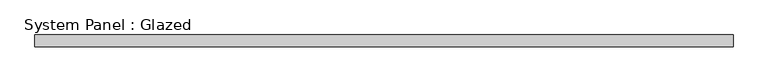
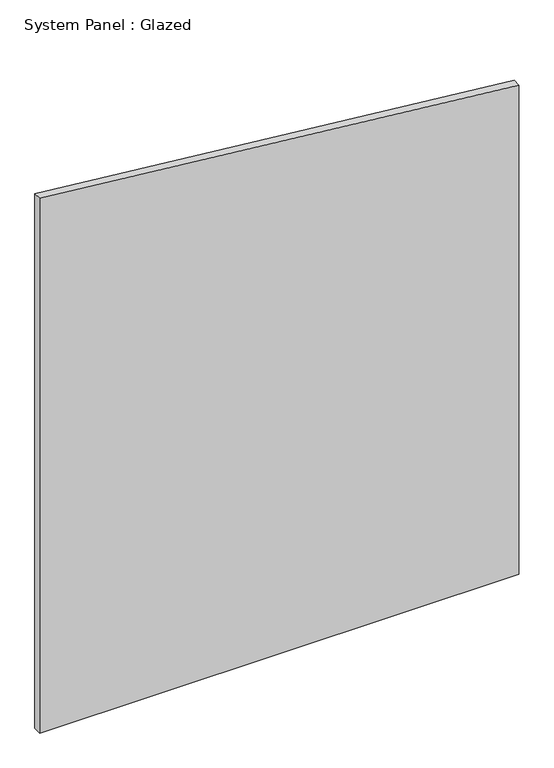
"""IFC4 building model written with IfcOpenShell, lengths in millimetres: plate geometry, System Panel : Glazed."""

from ifc_helpers import new_model, si_unit, frame, origin, place, context, project, spatial, polyline, outline, extrude, source, transform, mapped, element, save


def system_panel_glazed_63c225a5(model_context):
    return source(origin(), model_context, "Body", "SweptSolid", [
        extrude(outline(polyline([(0.0, -735.8695652), (0.0, 735.8695652), (1588.6488444, 735.8695652), (1736.6318231, -735.8695652), (0.0, -735.8695652)])), frame((0.0, 24.5, 0.0), z_axis=(0.0, 1.0, 0.0), x_axis=(0.0, 0.0, 1.0)), (0.0, 0.0, 1.0), 25.0),
    ])


if __name__ == "__main__":
    model = new_model("IFC4")
    model_context = context("Model", 3, world=origin())
    ifc_project = project(units=[si_unit("LENGTHUNIT", "METRE", prefix="MILLI")], contexts=[model_context])
    site = spatial("IfcSite", under=ifc_project)
    building = spatial("IfcBuilding", under=site)
    placement = place(None, origin())
    system_panel_glazed_shape = system_panel_glazed_63c225a5(model_context)
    element("IfcPlate", 1, ObjectType="System Panel : Glazed", at=placement, inside=building, context=model_context, shape_type="MappedRepresentation", body=[
        mapped(system_panel_glazed_shape, transform((0.0, 0.0, 0.0), x_axis=(1.0, 0.0, 0.0), y_axis=(0.0, 1.0, 0.0), z_axis=(0.0, 0.0, 1.0))),
    ])
    save(model, "model.ifc")
